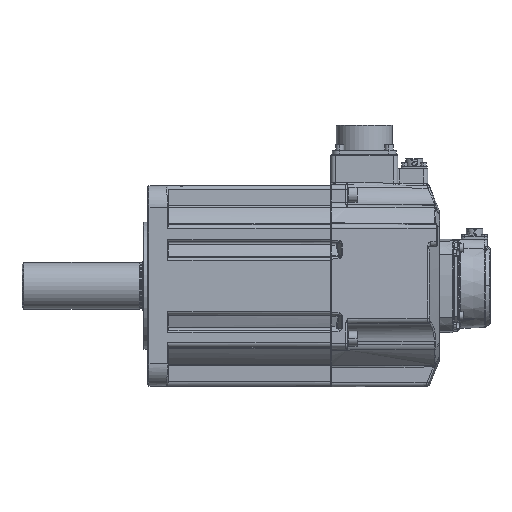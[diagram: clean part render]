
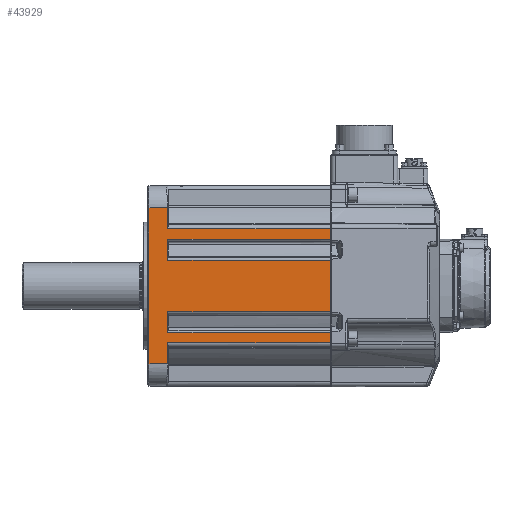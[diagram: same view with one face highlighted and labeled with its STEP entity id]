
A CAD part, left-side view. The second image highlights one B-rep face of the part: STEP entity #43929.
In plain terms, the highlighted planar face has unit normal (-1, 0, 0).
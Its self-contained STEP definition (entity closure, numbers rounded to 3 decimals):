
#8247=DIRECTION('',(0.,1.,0.));
#8248=VECTOR('',#8247,145.8);
#8249=CARTESIAN_POINT('',(1.745,143.3,-102.347));
#8250=LINE('',#8249,#8248);
#8251=DIRECTION('',(0.,-1.,0.));
#8252=VECTOR('',#8251,145.8);
#8253=CARTESIAN_POINT('',(1.745,289.1,-121.244));
#8254=LINE('',#8253,#8252);
#8255=DIRECTION('',(0.,0.,-1.));
#8256=VECTOR('',#8255,46.104);
#8257=CARTESIAN_POINT('',(1.745,143.3,-121.244));
#8258=LINE('',#8257,#8256);
#8259=DIRECTION('',(0.,1.,0.));
#8260=VECTOR('',#8259,145.8);
#8261=CARTESIAN_POINT('',(1.745,143.3,-167.347));
#8262=LINE('',#8261,#8260);
#8263=DIRECTION('',(0.,-1.,0.));
#8264=VECTOR('',#8263,145.8);
#8265=CARTESIAN_POINT('',(1.745,289.1,-186.244));
#8266=LINE('',#8265,#8264);
#8267=DIRECTION('',(0.,0.,-1.));
#8268=VECTOR('',#8267,9.155);
#8269=CARTESIAN_POINT('',(1.745,143.3,-186.244));
#8270=LINE('',#8269,#8268);
#8271=DIRECTION('',(0.,0.017,-1.));
#8272=VECTOR('',#8271,18.9);
#8273=CARTESIAN_POINT('',(1.745,289.421,-195.399));
#8274=LINE('',#8273,#8272);
#8275=DIRECTION('',(0.,1.,0.));
#8276=VECTOR('',#8275,16.349);
#8277=CARTESIAN_POINT('',(1.745,289.751,-214.296));
#8278=LINE('',#8277,#8276);
#8279=DIRECTION('',(0.,0.,1.));
#8280=VECTOR('',#8279,140.);
#8281=CARTESIAN_POINT('',(1.745,306.1,-214.296));
#8282=LINE('',#8281,#8280);
#8283=DIRECTION('',(0.,-1.,0.));
#8284=VECTOR('',#8283,16.349);
#8285=CARTESIAN_POINT('',(1.745,306.1,-74.296));
#8286=LINE('',#8285,#8284);
#8287=DIRECTION('',(0.,-0.017,-1.));
#8288=VECTOR('',#8287,18.9);
#8289=CARTESIAN_POINT('',(1.745,289.751,-74.296));
#8290=LINE('',#8289,#8288);
#8291=DIRECTION('',(0.,0.,-1.));
#8292=VECTOR('',#8291,9.155);
#8293=CARTESIAN_POINT('',(1.745,143.3,-93.192));
#8294=LINE('',#8293,#8292);
#8756=DIRECTION('',(0.,0.,1.));
#8757=VECTOR('',#8756,18.897);
#8758=CARTESIAN_POINT('',(1.745,289.1,-186.244));
#8759=LINE('',#8758,#8757);
#8833=DIRECTION('',(0.,0.,1.));
#8834=VECTOR('',#8833,18.897);
#8835=CARTESIAN_POINT('',(1.745,289.1,-121.244));
#8836=LINE('',#8835,#8834);
#8841=DIRECTION('',(0.,-1.,0.));
#8842=VECTOR('',#8841,146.121);
#8843=CARTESIAN_POINT('',(1.745,289.421,-195.399));
#8844=LINE('',#8843,#8842);
#9113=DIRECTION('',(0.,1.,0.));
#9114=VECTOR('',#9113,146.121);
#9115=CARTESIAN_POINT('',(1.745,143.3,-93.192));
#9116=LINE('',#9115,#9114);
#30592=CARTESIAN_POINT('',(1.745,143.3,-195.399));
#30593=VERTEX_POINT('',#30592);
#30594=CARTESIAN_POINT('',(1.745,143.3,-186.244));
#30595=VERTEX_POINT('',#30594);
#30643=CARTESIAN_POINT('',(1.745,289.1,
-186.244));
#30644=VERTEX_POINT('',#30643);
#30645=CARTESIAN_POINT('',(1.745,143.3,-102.347));
#30646=CARTESIAN_POINT('',(1.745,289.1,
-102.347));
#30647=VERTEX_POINT('',#30645);
#30648=VERTEX_POINT('',#30646);
#30649=CARTESIAN_POINT('',(1.745,289.1,
-121.244));
#30650=VERTEX_POINT('',#30649);
#30651=CARTESIAN_POINT('',(1.745,143.3,-121.244));
#30652=VERTEX_POINT('',#30651);
#30653=CARTESIAN_POINT('',(1.745,143.3,-167.347));
#30654=VERTEX_POINT('',#30653);
#30655=CARTESIAN_POINT('',(1.745,289.1,
-167.347));
#30656=VERTEX_POINT('',#30655);
#30657=CARTESIAN_POINT('',(1.745,289.421,
-195.399));
#30658=VERTEX_POINT('',#30657);
#30659=CARTESIAN_POINT('',(1.745,289.751,
-214.296));
#30660=VERTEX_POINT('',#30659);
#30661=CARTESIAN_POINT('',(1.745,306.1,
-214.296));
#30662=VERTEX_POINT('',#30661);
#30663=CARTESIAN_POINT('',(1.745,306.1,
-74.296));
#30664=VERTEX_POINT('',#30663);
#30665=CARTESIAN_POINT('',(1.745,289.751,
-74.296));
#30666=VERTEX_POINT('',#30665);
#30667=CARTESIAN_POINT('',(1.745,289.421,
-93.192));
#30668=VERTEX_POINT('',#30667);
#30669=CARTESIAN_POINT('',(1.745,143.3,-93.192));
#30670=VERTEX_POINT('',#30669);
#43895=CARTESIAN_POINT('',(1.745,307.1,-214.296));
#43896=DIRECTION('',(-1.,0.,0.));
#43897=DIRECTION('',(0.,0.,1.));
#43898=AXIS2_PLACEMENT_3D('',#43895,#43896,#43897);
#43899=PLANE('',#43898);
#43901=ORIENTED_EDGE('',*,*,#43900,.T.);
#43903=ORIENTED_EDGE('',*,*,#43902,.F.);
#43905=ORIENTED_EDGE('',*,*,#43904,.T.);
#43907=ORIENTED_EDGE('',*,*,#43906,.T.);
#43909=ORIENTED_EDGE('',*,*,#43908,.T.);
#43911=ORIENTED_EDGE('',*,*,#43910,.F.);
#43913=ORIENTED_EDGE('',*,*,#43912,.T.);
#43914=ORIENTED_EDGE('',*,*,#42586,.T.);
#43916=ORIENTED_EDGE('',*,*,#43915,.F.);
#43918=ORIENTED_EDGE('',*,*,#43917,.T.);
#43919=ORIENTED_EDGE('',*,*,#43887,.T.);
#43920=ORIENTED_EDGE('',*,*,#41464,.T.);
#43921=ORIENTED_EDGE('',*,*,#41505,.T.);
#43923=ORIENTED_EDGE('',*,*,#43922,.T.);
#43925=ORIENTED_EDGE('',*,*,#43924,.F.);
#43926=ORIENTED_EDGE('',*,*,#41944,.T.);
#43927=EDGE_LOOP('',(#43901,#43903,#43905,#43907,#43909,#43911,#43913,#43914,
#43916,#43918,#43919,#43920,#43921,#43923,#43925,#43926));
#43928=FACE_OUTER_BOUND('',#43927,.F.);
#43929=ADVANCED_FACE('',(#43928),#43899,.T.);
#41464=EDGE_CURVE('',#30662,#30664,#8282,.T.);
#41505=EDGE_CURVE('',#30664,#30666,#8286,.T.);
#41944=EDGE_CURVE('',#30670,#30647,#8294,.T.);
#42586=EDGE_CURVE('',#30595,#30593,#8270,.T.);
#43887=EDGE_CURVE('',#30660,#30662,#8278,.T.);
#43900=EDGE_CURVE('',#30647,#30648,#8250,.T.);
#43902=EDGE_CURVE('',#30650,#30648,#8836,.T.);
#43904=EDGE_CURVE('',#30650,#30652,#8254,.T.);
#43906=EDGE_CURVE('',#30652,#30654,#8258,.T.);
#43908=EDGE_CURVE('',#30654,#30656,#8262,.T.);
#43910=EDGE_CURVE('',#30644,#30656,#8759,.T.);
#43912=EDGE_CURVE('',#30644,#30595,#8266,.T.);
#43915=EDGE_CURVE('',#30658,#30593,#8844,.T.);
#43917=EDGE_CURVE('',#30658,#30660,#8274,.T.);
#43922=EDGE_CURVE('',#30666,#30668,#8290,.T.);
#43924=EDGE_CURVE('',#30670,#30668,#9116,.T.);
